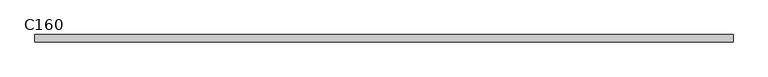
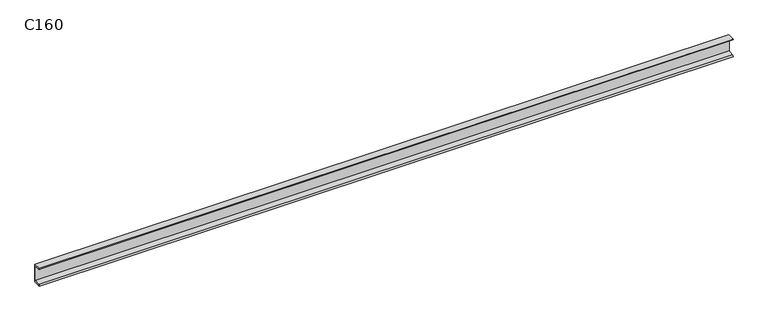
"""IFC4 building model written with IfcOpenShell, lengths in millimetres: beam geometry, RPLN C - Ceowniki normalne : C160."""

from ifc_helpers import new_model, si_unit, point, frame, frame_2d, origin, place, context, project, spatial, polyline, circle_curve, trimmed, segment, composite_curve, outline, extrude, source, transform, mapped, element, save


def c160_ed46d0f5(model_context):
    return source(origin(), model_context, "Body", "SweptSolid", [
        extrude(outline(composite_curve([segment(polyline([(18.4, 80.0), (18.4, -80.0), (-46.6, -80.0)]), True, "CONTINUOUS"), segment(trimmed(circle_curve(frame_2d((-36.1, -80.0)), 10.5), [point((-46.6, -80.0))], [point((-36.1, -69.5))], False, "CARTESIAN"), True, "CONTINUOUS"), segment(polyline([(-36.1, -69.5), (10.9, -62.0559313), (10.9, 62.0559313), (-36.1, 69.5)]), True, "CONTINUOUS"), segment(trimmed(circle_curve(frame_2d((-36.1, 80.0)), 10.5), [point((-36.1, 69.5))], [point((-46.6, 80.0))], False, "CARTESIAN"), True, "CONTINUOUS"), segment(polyline([(-46.6, 80.0), (18.4, 80.0)]), True, "CONTINUOUS")], self_intersect=False)), frame((-2992.5, 0.0, 0.0), z_axis=(1.0, 0.0, 0.0), x_axis=(0.0, 1.0, 0.0)), (0.0, 0.0, 1.0), 5992.091105),
    ])


if __name__ == "__main__":
    model = new_model("IFC4")
    model_context = context("Model", 3, world=origin())
    ifc_project = project(units=[si_unit("LENGTHUNIT", "METRE", prefix="MILLI")], contexts=[model_context])
    site = spatial("IfcSite", under=ifc_project)
    building = spatial("IfcBuilding", under=site)
    placement = place(None, origin())
    c160_shape = c160_ed46d0f5(model_context)
    element("IfcBeam", 1, ObjectType="RPLN C - Ceowniki normalne : C160", at=placement, inside=building, context=model_context, shape_type="MappedRepresentation", body=[
        mapped(c160_shape, transform((0.0, 0.0, 0.0), x_axis=(1.0, 0.0, 0.0), y_axis=(0.0, 1.0, 0.0), z_axis=(0.0, 0.0, 1.0))),
    ])
    save(model, "model.ifc")
